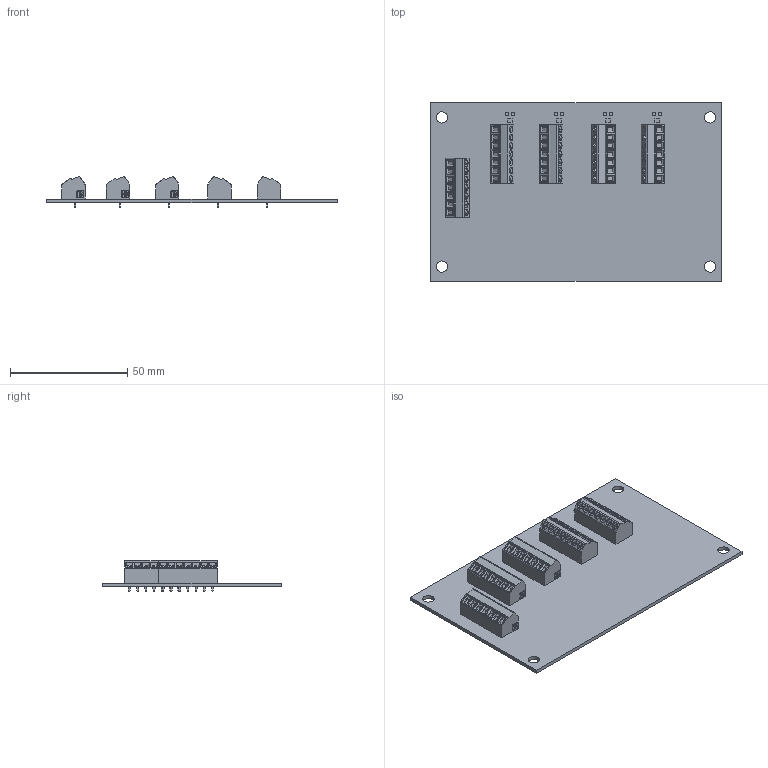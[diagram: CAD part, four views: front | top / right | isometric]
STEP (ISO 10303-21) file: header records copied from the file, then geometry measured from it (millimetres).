
FILE_DESCRIPTION (( 'STEP AP203' ), '1' );
FILE_NAME ('HI6010JB-SC1.STEP', '2021-06-08T00:23:55', ( '' ), ( '' ), 'SwSTEP 2.0', 'SolidWorks 2020', '' );
FILE_SCHEMA (( 'CONFIG_CONTROL_DESIGN' ));
Length unit declared in the file: inch
Products named in the file (4): 0535-0562-XX-0; 2101-0167-0; 0534-0562-01-0; HI6010JB-SC1
Assembly tree (7 placements, depth 3):
  HI6010JB-SC1
    0535-0562-XX-0
      0534-0562-01-0
      2101-0167-0  x5
Bounding box: 123.83 x 76.2 x 13 mm (x, y, z)
Volume: 24675.7 mm3; surface area: 27253.1 mm2
Topology: 53 solids, 53 shells, 1726 faces, 4205 edges, 2780 vertices
Faces by surface type: plane 1108, cylinder 618
Entity records: 19133 total; most frequent: DIRECTION 3355, CARTESIAN_POINT 3210, ORIENTED_EDGE 2978, EDGE_CURVE 1489, AXIS2_PLACEMENT_3D 1245, VERTEX_POINT 988, LINE 865, VECTOR 865
